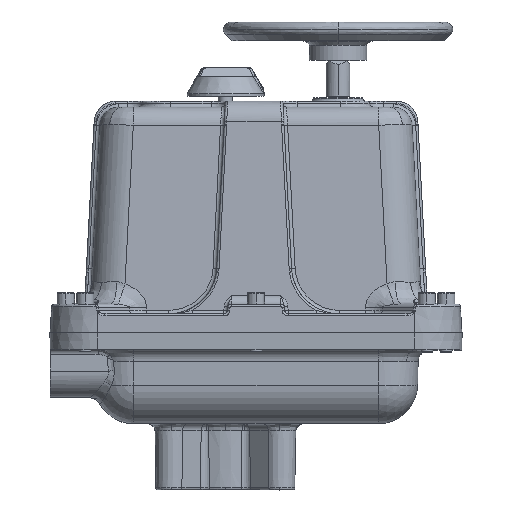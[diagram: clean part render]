
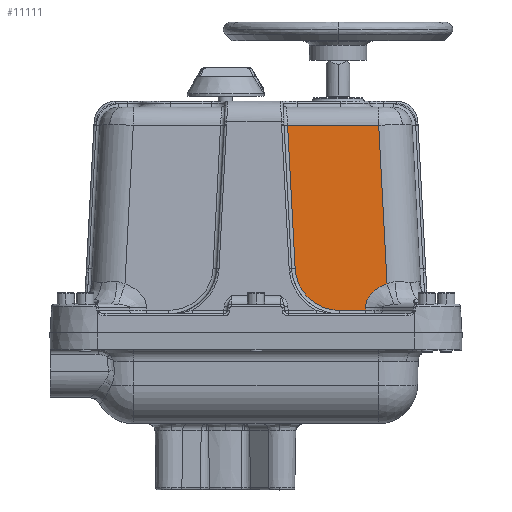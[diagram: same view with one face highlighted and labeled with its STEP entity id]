
A CAD part, top view. The second image highlights one B-rep face of the part: STEP entity #11111.
In plain terms, the highlighted planar face has unit normal (0, 0.052, 0.999) as drawn and (0, 0.999, 0.052) by its records, which use the part's own axes.
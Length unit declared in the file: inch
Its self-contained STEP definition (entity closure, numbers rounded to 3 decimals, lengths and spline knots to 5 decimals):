
#372 = CARTESIAN_POINT ( 'NONE',  ( -2.90426, 3.83651, 0.58908 ) ) ;
#540 = ORIENTED_EDGE ( 'NONE', *, *, #68715, .F. ) ;
#785 = CARTESIAN_POINT ( 'NONE',  ( -2.61739, 3.83362, 0.6442 ) ) ;
#830 = CARTESIAN_POINT ( 'NONE',  ( -3.66341, 3.83651, 0.58908 ) ) ;
#1780 = CARTESIAN_POINT ( 'NONE',  ( -4.14691, 3.80192, 1.24912 ) ) ;
#2185 = CARTESIAN_POINT ( 'NONE',  ( -3.68732, 3.8253, 0.8029 ) ) ;
#2585 = CARTESIAN_POINT ( 'NONE',  ( -3.72518, 3.82052, 0.89418 ) ) ;
#5178 = EDGE_CURVE ( 'NONE', #73427, #8373, #10821, .T. ) ;
#6030 = CARTESIAN_POINT ( 'NONE',  ( -1.87296, 3.79418, 1.39668 ) ) ;
#6236 = B_SPLINE_CURVE_WITH_KNOTS ( 'NONE', 3,
 ( #34785, #28747, #60510, #23871 ),
 .UNSPECIFIED., .F., .F.,
 ( 4, 4 ),
 ( 0., 1. ),
 .UNSPECIFIED. ) ;
#6423 = CARTESIAN_POINT ( 'NONE',  ( -1.95853, 3.80478, 1.19451 ) ) ;
#6827 = CARTESIAN_POINT ( 'NONE',  ( -1.99528, 3.80809, 1.13134 ) ) ;
#7377 = VERTEX_POINT ( 'NONE', #49983 ) ;
#7884 = CARTESIAN_POINT ( 'NONE',  ( -2.97765, 3.83651, 0.58908 ) ) ;
#8373 = VERTEX_POINT ( 'NONE', #830 ) ;
#8622 = CARTESIAN_POINT ( 'NONE',  ( -3.80207, 3.81455, 1.0081 ) ) ;
#8921 = ORIENTED_EDGE ( 'NONE', *, *, #64062, .T. ) ;
#10226 = CARTESIAN_POINT ( 'NONE',  ( -3.66508, 3.83247, 0.66609 ) ) ;
#10821 = B_SPLINE_CURVE_WITH_KNOTS ( 'NONE', 3,
 ( #59634, #53592, #78552, #72119 ),
 .UNSPECIFIED., .F., .F.,
 ( 4, 4 ),
 ( 0., 1. ),
 .UNSPECIFIED. ) ;
#10837 = CARTESIAN_POINT ( 'NONE',  ( -4.22659, 3.80042, 1.27761 ) ) ;
#11111 = ADVANCED_FACE ( 'NONE', ( #61381 ), #18722, .T. ) ;
#11639 = VERTEX_POINT ( 'NONE', #10837 ) ;
#13678 = CARTESIAN_POINT ( 'NONE',  ( -2.12872, 3.81722, 0.95703 ) ) ;
#13985 = VERTEX_POINT ( 'NONE', #51188 ) ;
#14552 = ORIENTED_EDGE ( 'NONE', *, *, #30715, .T. ) ;
#14893 = ORIENTED_EDGE ( 'NONE', *, *, #58152, .T. ) ;
#18069 = CARTESIAN_POINT ( 'NONE',  ( -2.48117, 3.83077, 0.69855 ) ) ;
#18722 = PLANE ( 'NONE',  #37342 ) ;
#19116 = DIRECTION ( 'NONE',  ( 1., 0., 0. ) ) ;
#19677 = CARTESIAN_POINT ( 'NONE',  ( -2.29264, 3.82488, 0.81101 ) ) ;
#20344 = CARTESIAN_POINT ( 'NONE',  ( -1.82323, 3.77909, 1.68458 ) ) ;
#21065 = CARTESIAN_POINT ( 'NONE',  ( -3.85116, 3.81179, 1.06071 ) ) ;
#21405 = CARTESIAN_POINT ( 'NONE',  ( -4.00891, 3.58274, 5.43117 ) ) ;
#21854 = CARTESIAN_POINT ( 'NONE',  ( -3.78014, 3.81599, 0.98065 ) ) ;
#23871 = CARTESIAN_POINT ( 'NONE',  ( -3.66496, 3.83274, 0.66092 ) ) ;
#25189 = B_SPLINE_CURVE_WITH_KNOTS ( 'NONE', 3,
 ( #42617, #55876, #56673, #6030, #25703, #6423, #6827, #30944, #13678, #31351, #19677, #43019, #18069, #785, #67584, #44230, #372, #50249 ),
 .UNSPECIFIED., .F., .F.,
 ( 4, 2, 2, 2, 2, 2, 2, 2, 4 ),
 ( 0., 0.125, 0.25, 0.375, 0.5, 0.625, 0.75, 0.875, 1. ),
 .UNSPECIFIED. ) ;
#25506 = VERTEX_POINT ( 'NONE', #21405 ) ;
#25703 = CARTESIAN_POINT ( 'NONE',  ( -1.89713, 3.7978, 1.3277 ) ) ;
#25833 = VERTEX_POINT ( 'NONE', #59497 ) ;
#27524 = CARTESIAN_POINT ( 'NONE',  ( -3.96869, 3.80684, 1.1551 ) ) ;
#27614 = EDGE_CURVE ( 'NONE', #25833, #63736, #68702, .T. ) ;
#28747 = CARTESIAN_POINT ( 'NONE',  ( -3.66392, 3.83525, 0.61303 ) ) ;
#28989 = B_SPLINE_CURVE_WITH_KNOTS ( 'NONE', 3,
 ( #39169, #75409, #57678, #2185, #44837, #2585, #58474, #21854, #8622, #21065, #33162, #46395, #27524, #70574, #46016, #1780, #32753, #45624 ),
 .UNSPECIFIED., .F., .F.,
 ( 4, 2, 2, 2, 2, 2, 2, 2, 4 ),
 ( 0., 0.125, 0.25, 0.375, 0.5, 0.625, 0.75, 0.875, 1. ),
 .UNSPECIFIED. ) ;
#29514 = CARTESIAN_POINT ( 'NONE',  ( -3.66554, 3.83193, 0.67643 ) ) ;
#30715 = EDGE_CURVE ( 'NONE', #13985, #73427, #25189, .T. ) ;
#30944 = CARTESIAN_POINT ( 'NONE',  ( -2.08071, 3.81434, 1.01213 ) ) ;
#31351 = CARTESIAN_POINT ( 'NONE',  ( -2.2351, 3.82251, 0.85607 ) ) ;
#32753 = CARTESIAN_POINT ( 'NONE',  ( -4.18597, 3.80112, 1.2643 ) ) ;
#33135 = CARTESIAN_POINT ( 'NONE',  ( -4.00891, 3.58274, 5.43117 ) ) ;
#33162 = CARTESIAN_POINT ( 'NONE',  ( -3.87821, 3.81048, 1.08573 ) ) ;
#33620 = CARTESIAN_POINT ( 'NONE',  ( -1.75778, 3.71364, 2.93344 ) ) ;
#34785 = CARTESIAN_POINT ( 'NONE',  ( -3.66341, 3.83651, 0.58908 ) ) ;
#37342 = AXIS2_PLACEMENT_3D ( 'NONE', #43675, #43262, #19116 ) ;
#37755 = ORIENTED_EDGE ( 'NONE', *, *, #27614, .T. ) ;
#39169 = CARTESIAN_POINT ( 'NONE',  ( -3.66554, 3.83193, 0.67643 ) ) ;
#39903 = ORIENTED_EDGE ( 'NONE', *, *, #51730, .T. ) ;
#39949 = CARTESIAN_POINT ( 'NONE',  ( -4.15403, 3.72786, 2.66213 ) ) ;
#41186 = CARTESIAN_POINT ( 'NONE',  ( -3.66527, 3.8322, 0.67127 ) ) ;
#42617 = CARTESIAN_POINT ( 'NONE',  ( -1.82323, 3.77909, 1.68458 ) ) ;
#43019 = CARTESIAN_POINT ( 'NONE',  ( -2.41616, 3.82902, 0.73194 ) ) ;
#43117 = CARTESIAN_POINT ( 'NONE',  ( -3.2149, 3.58274, 5.43117 ) ) ;
#43262 = DIRECTION ( 'NONE',  ( 0., 0.999, 0.052 ) ) ;
#43675 = CARTESIAN_POINT ( 'NONE',  ( -4.24219, 3.83651, 0.58908 ) ) ;
#44230 = CARTESIAN_POINT ( 'NONE',  ( -2.83156, 3.83614, 0.596 ) ) ;
#44391 = B_SPLINE_CURVE_WITH_KNOTS ( 'NONE', 3,
 ( #67276, #74506, #43117, #48361 ),
 .UNSPECIFIED., .F., .F.,
 ( 4, 4 ),
 ( 0., 1. ),
 .UNSPECIFIED. ) ;
#44837 = CARTESIAN_POINT ( 'NONE',  ( -3.698, 3.82368, 0.83376 ) ) ;
#45624 = CARTESIAN_POINT ( 'NONE',  ( -4.22659, 3.80042, 1.27761 ) ) ;
#46016 = CARTESIAN_POINT ( 'NONE',  ( -4.07191, 3.8037, 1.21499 ) ) ;
#46395 = CARTESIAN_POINT ( 'NONE',  ( -3.93704, 3.808, 1.13298 ) ) ;
#47652 = B_SPLINE_CURVE_WITH_KNOTS ( 'NONE', 3,
 ( #75476, #69453, #33620, #20344 ),
 .UNSPECIFIED., .F., .F.,
 ( 4, 4 ),
 ( 0., 1. ),
 .UNSPECIFIED. ) ;
#48361 = CARTESIAN_POINT ( 'NONE',  ( -4.00891, 3.58274, 5.43117 ) ) ;
#49983 = CARTESIAN_POINT ( 'NONE',  ( -1.62688, 3.58274, 5.43117 ) ) ;
#50249 = CARTESIAN_POINT ( 'NONE',  ( -2.97765, 3.83651, 0.58908 ) ) ;
#51188 = CARTESIAN_POINT ( 'NONE',  ( -1.82323, 3.77909, 1.68458 ) ) ;
#51318 = CARTESIAN_POINT ( 'NONE',  ( -3.66554, 3.83193, 0.67643 ) ) ;
#51730 = EDGE_CURVE ( 'NONE', #7377, #13985, #47652, .T. ) ;
#53592 = CARTESIAN_POINT ( 'NONE',  ( -3.20623, 3.83651, 0.58908 ) ) ;
#55876 = CARTESIAN_POINT ( 'NONE',  ( -1.82707, 3.78293, 1.61132 ) ) ;
#56673 = CARTESIAN_POINT ( 'NONE',  ( -1.83779, 3.78672, 1.53906 ) ) ;
#57678 = CARTESIAN_POINT ( 'NONE',  ( -3.67192, 3.82859, 0.74015 ) ) ;
#58152 = EDGE_CURVE ( 'NONE', #8373, #25833, #6236, .T. ) ;
#58474 = CARTESIAN_POINT ( 'NONE',  ( -3.74163, 3.81898, 0.92359 ) ) ;
#58847 = CARTESIAN_POINT ( 'NONE',  ( -4.08147, 3.6553, 4.04665 ) ) ;
#59497 = CARTESIAN_POINT ( 'NONE',  ( -3.66496, 3.83274, 0.66092 ) ) ;
#59634 = CARTESIAN_POINT ( 'NONE',  ( -2.97765, 3.83651, 0.58908 ) ) ;
#60510 = CARTESIAN_POINT ( 'NONE',  ( -3.66444, 3.834, 0.63697 ) ) ;
#60617 = EDGE_LOOP ( 'NONE', ( #72719, #8921, #540, #39903, #14552, #72797, #14893, #37755 ) ) ;
#61381 = FACE_OUTER_BOUND ( 'NONE', #60617, .T. ) ;
#63736 = VERTEX_POINT ( 'NONE', #51318 ) ;
#64062 = EDGE_CURVE ( 'NONE', #11639, #25506, #68862, .T. ) ;
#67276 = CARTESIAN_POINT ( 'NONE',  ( -1.62688, 3.58274, 5.43117 ) ) ;
#67584 = CARTESIAN_POINT ( 'NONE',  ( -2.68753, 3.83469, 0.62368 ) ) ;
#68702 = B_SPLINE_CURVE_WITH_KNOTS ( 'NONE', 3,
 ( #71392, #10226, #41186, #29514 ),
 .UNSPECIFIED., .F., .F.,
 ( 4, 4 ),
 ( 0., 1. ),
 .UNSPECIFIED. ) ;
#68715 = EDGE_CURVE ( 'NONE', #7377, #25506, #44391, .T. ) ;
#68862 = B_SPLINE_CURVE_WITH_KNOTS ( 'NONE', 3,
 ( #75773, #39949, #58847, #33135 ),
 .UNSPECIFIED., .F., .F.,
 ( 4, 4 ),
 ( 0., 1. ),
 .UNSPECIFIED. ) ;
#69453 = CARTESIAN_POINT ( 'NONE',  ( -1.69233, 3.64819, 4.18231 ) ) ;
#69539 = EDGE_CURVE ( 'NONE', #63736, #11639, #28989, .T. ) ;
#70574 = CARTESIAN_POINT ( 'NONE',  ( -4.03621, 3.80469, 1.19616 ) ) ;
#71392 = CARTESIAN_POINT ( 'NONE',  ( -3.66496, 3.83274, 0.66092 ) ) ;
#72119 = CARTESIAN_POINT ( 'NONE',  ( -3.66341, 3.83651, 0.58908 ) ) ;
#72719 = ORIENTED_EDGE ( 'NONE', *, *, #69539, .T. ) ;
#72797 = ORIENTED_EDGE ( 'NONE', *, *, #5178, .T. ) ;
#73427 = VERTEX_POINT ( 'NONE', #7884 ) ;
#74506 = CARTESIAN_POINT ( 'NONE',  ( -2.42089, 3.58274, 5.43117 ) ) ;
#75409 = CARTESIAN_POINT ( 'NONE',  ( -3.66722, 3.83025, 0.70843 ) ) ;
#75476 = CARTESIAN_POINT ( 'NONE',  ( -1.62688, 3.58274, 5.43117 ) ) ;
#75773 = CARTESIAN_POINT ( 'NONE',  ( -4.22659, 3.80042, 1.27761 ) ) ;
#78552 = CARTESIAN_POINT ( 'NONE',  ( -3.43482, 3.83651, 0.58908 ) ) ;
